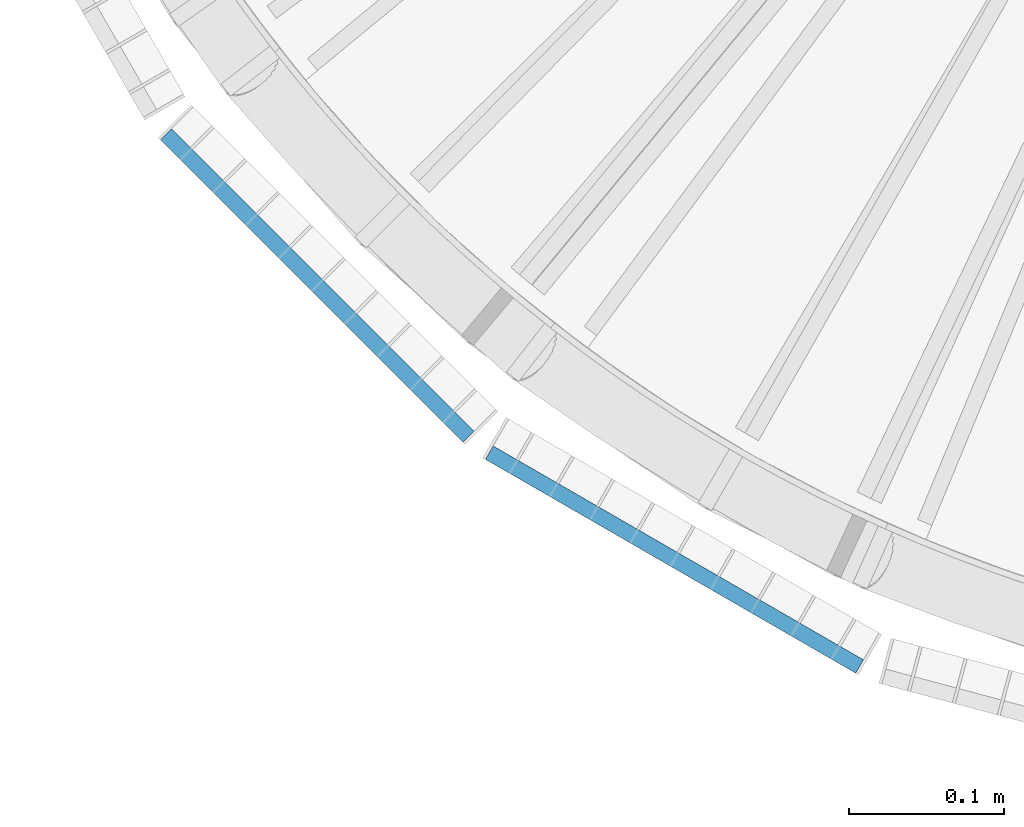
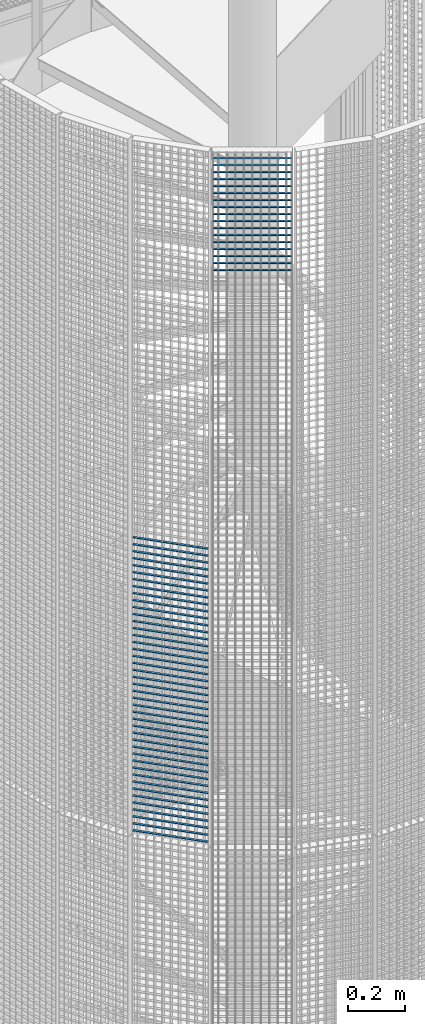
# One storey, part 328 of 1148: 60 beams, 2 elements without a shape of their own.
"""IFC2X3 building model written with IfcOpenShell, lengths in millimetres."""

from ifc_helpers import new_model, si_unit, frame, origin_with_axes, origin_2d_with_axis, place, context, subcontext, project, spatial, rectangle, extrude, material, type_object, element, aggregate, save


model = new_model("IFC2X3")

# Units and contexts
model_context = context("Model", 3, precision=1e-05, world=origin_with_axes())
body_context = subcontext(model_context, "Body", "Model", "MODEL_VIEW")
ifc_project = project(units=[si_unit("LENGTHUNIT", "METRE", prefix="MILLI"), si_unit("AREAUNIT", "SQUARE_METRE"), si_unit("VOLUMEUNIT", "CUBIC_METRE"), si_unit("MASSUNIT", "GRAM", prefix="KILO"), si_unit("TIMEUNIT", "SECOND"), si_unit("PLANEANGLEUNIT", "RADIAN"), si_unit("SOLIDANGLEUNIT", "STERADIAN"), si_unit("THERMODYNAMICTEMPERATUREUNIT", "DEGREE_CELSIUS"), si_unit("LUMINOUSINTENSITYUNIT", "LUMEN")], contexts=[model_context])

# Site, building, storey
site_placement = place(None, origin_with_axes())
site = spatial("IfcSite", under=ifc_project, at=site_placement, Name="Undefined", CompositionType="ELEMENT")
building_placement = place(site_placement, origin_with_axes())
building = spatial("IfcBuilding", under=site, at=building_placement, Name="Undefined", CompositionType="ELEMENT")
storey_placement = place(building_placement, origin_with_axes())
storey = spatial("IfcBuildingStorey", under=building, at=storey_placement, Name="Undefined", CompositionType="ELEMENT", Elevation=0.0)

# Assembly, beams
assembly_1_placement = place(storey_placement, origin_with_axes())
assembly_1 = element("IfcElementAssembly", 1, at=assembly_1_placement, inside=storey, Name="BORDURE", AssemblyPlace="NOTDEFINED", PredefinedType="NOTDEFINED")
ifc_material = material(Name="STEEL/S235JR")
beam_type = type_object("IfcBeamType", Name="PL2*10", PredefinedType="NOTDEFINED")
beam_1_placement = place(assembly_1_placement, frame((20910.2286510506, -884.927168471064, 16290.0), z_axis=(-0.70710678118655, -0.707106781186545, 0.0), x_axis=(-0.707106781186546, 0.707106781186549, 0.0)))
beam_1 = element("IfcBeam", 2, at=beam_1_placement, type_object=beam_type, material=ifc_material, Name="ENTRETOISE", context=body_context, shape_type="SweptSolid", body=[
    extrude(rectangle(XDim=2.0, YDim=10.0, at=origin_2d_with_axis()), frame((275.999999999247, 9.09494701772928e-13, 1.53210777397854e-14), z_axis=(-1.0, 0.0, 0.0), x_axis=(0.0, -1.0, 0.0)), (0.0, 0.0, 1.0), 276.0),
])
beam_2_placement = place(assembly_1_placement, frame((20910.2286510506, -884.927168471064, 16260.0), z_axis=(-0.70710678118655, -0.707106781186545, 0.0), x_axis=(-0.707106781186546, 0.707106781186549, 0.0)))
beam_2 = element("IfcBeam", 3, at=beam_2_placement, type_object=beam_type, material=ifc_material, Name="ENTRETOISE", context=body_context, shape_type="SweptSolid", body=[
    extrude(rectangle(XDim=2.0, YDim=10.0, at=origin_2d_with_axis()), frame((275.999999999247, 9.09494701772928e-13, 1.53210777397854e-14), z_axis=(-1.0, 0.0, 0.0), x_axis=(0.0, -1.0, 0.0)), (0.0, 0.0, 1.0), 276.0),
])
beam_3_placement = place(assembly_1_placement, frame((20910.2286510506, -884.927168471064, 16230.0), z_axis=(-0.70710678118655, -0.707106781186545, 0.0), x_axis=(-0.707106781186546, 0.707106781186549, 0.0)))
beam_3 = element("IfcBeam", 4, at=beam_3_placement, type_object=beam_type, material=ifc_material, Name="ENTRETOISE", context=body_context, shape_type="SweptSolid", body=[
    extrude(rectangle(XDim=2.0, YDim=10.0, at=origin_2d_with_axis()), frame((275.999999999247, 9.09494701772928e-13, 1.53210777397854e-14), z_axis=(-1.0, 0.0, 0.0), x_axis=(0.0, -1.0, 0.0)), (0.0, 0.0, 1.0), 276.0),
])
beam_4_placement = place(assembly_1_placement, frame((20910.2286510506, -884.927168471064, 16200.0), z_axis=(-0.70710678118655, -0.707106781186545, 0.0), x_axis=(-0.707106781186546, 0.707106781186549, 0.0)))
beam_4 = element("IfcBeam", 5, at=beam_4_placement, type_object=beam_type, material=ifc_material, Name="ENTRETOISE", context=body_context, shape_type="SweptSolid", body=[
    extrude(rectangle(XDim=2.0, YDim=10.0, at=origin_2d_with_axis()), frame((275.999999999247, 9.09494701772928e-13, 1.53210777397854e-14), z_axis=(-1.0, 0.0, 0.0), x_axis=(0.0, -1.0, 0.0)), (0.0, 0.0, 1.0), 276.0),
])
beam_5_placement = place(assembly_1_placement, frame((20910.2286510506, -884.927168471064, 16170.0), z_axis=(-0.70710678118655, -0.707106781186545, 0.0), x_axis=(-0.707106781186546, 0.707106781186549, 0.0)))
beam_5 = element("IfcBeam", 6, at=beam_5_placement, type_object=beam_type, material=ifc_material, Name="ENTRETOISE", context=body_context, shape_type="SweptSolid", body=[
    extrude(rectangle(XDim=2.0, YDim=10.0, at=origin_2d_with_axis()), frame((275.999999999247, 9.09494701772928e-13, 1.53210777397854e-14), z_axis=(-1.0, 0.0, 0.0), x_axis=(0.0, -1.0, 0.0)), (0.0, 0.0, 1.0), 276.0),
])
beam_6_placement = place(assembly_1_placement, frame((20910.2286510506, -884.927168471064, 16140.0), z_axis=(-0.70710678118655, -0.707106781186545, 0.0), x_axis=(-0.707106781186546, 0.707106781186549, 0.0)))
beam_6 = element("IfcBeam", 7, at=beam_6_placement, type_object=beam_type, material=ifc_material, Name="ENTRETOISE", context=body_context, shape_type="SweptSolid", body=[
    extrude(rectangle(XDim=2.0, YDim=10.0, at=origin_2d_with_axis()), frame((275.999999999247, 9.09494701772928e-13, 1.53210777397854e-14), z_axis=(-1.0, 0.0, 0.0), x_axis=(0.0, -1.0, 0.0)), (0.0, 0.0, 1.0), 276.0),
])
beam_7_placement = place(assembly_1_placement, frame((20910.2286510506, -884.927168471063, 15720.0), z_axis=(-0.70710678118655, -0.707106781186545, 0.0), x_axis=(-0.707106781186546, 0.707106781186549, 0.0)))
beam_7 = element("IfcBeam", 8, at=beam_7_placement, type_object=beam_type, material=ifc_material, Name="ENTRETOISE", context=body_context, shape_type="SweptSolid", body=[
    extrude(rectangle(XDim=2.0, YDim=10.0, at=origin_2d_with_axis()), frame((275.999999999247, 9.09494701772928e-13, 1.53210777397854e-14), z_axis=(-1.0, 0.0, 0.0), x_axis=(0.0, -1.0, 0.0)), (0.0, 0.0, 1.0), 276.0),
])
beam_8_placement = place(assembly_1_placement, frame((20910.2286510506, -884.927168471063, 15690.0), z_axis=(-0.70710678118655, -0.707106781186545, 0.0), x_axis=(-0.707106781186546, 0.707106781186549, 0.0)))
beam_8 = element("IfcBeam", 9, at=beam_8_placement, type_object=beam_type, material=ifc_material, Name="ENTRETOISE", context=body_context, shape_type="SweptSolid", body=[
    extrude(rectangle(XDim=2.0, YDim=10.0, at=origin_2d_with_axis()), frame((275.999999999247, 9.09494701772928e-13, 1.53210777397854e-14), z_axis=(-1.0, 0.0, 0.0), x_axis=(0.0, -1.0, 0.0)), (0.0, 0.0, 1.0), 276.0),
])
beam_9_placement = place(assembly_1_placement, frame((20910.2286510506, -884.927168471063, 15750.0), z_axis=(-0.70710678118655, -0.707106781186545, 0.0), x_axis=(-0.707106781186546, 0.707106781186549, 0.0)))
beam_9 = element("IfcBeam", 10, at=beam_9_placement, type_object=beam_type, material=ifc_material, Name="ENTRETOISE", context=body_context, shape_type="SweptSolid", body=[
    extrude(rectangle(XDim=2.0, YDim=10.0, at=origin_2d_with_axis()), frame((275.999999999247, 9.09494701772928e-13, 1.53210777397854e-14), z_axis=(-1.0, 0.0, 0.0), x_axis=(0.0, -1.0, 0.0)), (0.0, 0.0, 1.0), 276.0),
])
beam_10_placement = place(assembly_1_placement, frame((20910.2286510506, -884.927168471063, 15660.0), z_axis=(-0.70710678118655, -0.707106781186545, 0.0), x_axis=(-0.707106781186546, 0.707106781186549, 0.0)))
beam_10 = element("IfcBeam", 11, at=beam_10_placement, type_object=beam_type, material=ifc_material, Name="ENTRETOISE", context=body_context, shape_type="SweptSolid", body=[
    extrude(rectangle(XDim=2.0, YDim=10.0, at=origin_2d_with_axis()), frame((275.999999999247, 9.09494701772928e-13, 1.53210777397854e-14), z_axis=(-1.0, 0.0, 0.0), x_axis=(0.0, -1.0, 0.0)), (0.0, 0.0, 1.0), 276.0),
])
beam_11_placement = place(assembly_1_placement, frame((20910.2286510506, -884.927168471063, 15630.0), z_axis=(-0.70710678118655, -0.707106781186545, 0.0), x_axis=(-0.707106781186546, 0.707106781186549, 0.0)))
beam_11 = element("IfcBeam", 12, at=beam_11_placement, type_object=beam_type, material=ifc_material, Name="ENTRETOISE", context=body_context, shape_type="SweptSolid", body=[
    extrude(rectangle(XDim=2.0, YDim=10.0, at=origin_2d_with_axis()), frame((275.999999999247, 9.09494701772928e-13, 1.53210777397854e-14), z_axis=(-1.0, 0.0, 0.0), x_axis=(0.0, -1.0, 0.0)), (0.0, 0.0, 1.0), 276.0),
])
beam_12_placement = place(assembly_1_placement, frame((20910.2286510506, -884.927168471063, 15780.0), z_axis=(-0.70710678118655, -0.707106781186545, 0.0), x_axis=(-0.707106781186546, 0.707106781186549, 0.0)))
beam_12 = element("IfcBeam", 13, at=beam_12_placement, type_object=beam_type, material=ifc_material, Name="ENTRETOISE", context=body_context, shape_type="SweptSolid", body=[
    extrude(rectangle(XDim=2.0, YDim=10.0, at=origin_2d_with_axis()), frame((275.999999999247, 9.09494701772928e-13, 1.53210777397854e-14), z_axis=(-1.0, 0.0, 0.0), x_axis=(0.0, -1.0, 0.0)), (0.0, 0.0, 1.0), 276.0),
])
beam_13_placement = place(assembly_1_placement, frame((20910.2286510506, -884.927168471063, 15600.0), z_axis=(-0.70710678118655, -0.707106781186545, 0.0), x_axis=(-0.707106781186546, 0.707106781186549, 0.0)))
beam_13 = element("IfcBeam", 14, at=beam_13_placement, type_object=beam_type, material=ifc_material, Name="ENTRETOISE", context=body_context, shape_type="SweptSolid", body=[
    extrude(rectangle(XDim=2.0, YDim=10.0, at=origin_2d_with_axis()), frame((275.999999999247, 9.09494701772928e-13, 1.53210777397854e-14), z_axis=(-1.0, 0.0, 0.0), x_axis=(0.0, -1.0, 0.0)), (0.0, 0.0, 1.0), 276.0),
])
beam_14_placement = place(assembly_1_placement, frame((20910.2286510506, -884.927168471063, 15810.0), z_axis=(-0.70710678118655, -0.707106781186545, 0.0), x_axis=(-0.707106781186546, 0.707106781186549, 0.0)))
beam_14 = element("IfcBeam", 15, at=beam_14_placement, type_object=beam_type, material=ifc_material, Name="ENTRETOISE", context=body_context, shape_type="SweptSolid", body=[
    extrude(rectangle(XDim=2.0, YDim=10.0, at=origin_2d_with_axis()), frame((275.999999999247, 9.09494701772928e-13, 1.53210777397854e-14), z_axis=(-1.0, 0.0, 0.0), x_axis=(0.0, -1.0, 0.0)), (0.0, 0.0, 1.0), 276.0),
])
beam_15_placement = place(assembly_1_placement, frame((20910.2286510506, -884.927168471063, 15570.0), z_axis=(-0.70710678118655, -0.707106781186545, 0.0), x_axis=(-0.707106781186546, 0.707106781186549, 0.0)))
beam_15 = element("IfcBeam", 16, at=beam_15_placement, type_object=beam_type, material=ifc_material, Name="ENTRETOISE", context=body_context, shape_type="SweptSolid", body=[
    extrude(rectangle(XDim=2.0, YDim=10.0, at=origin_2d_with_axis()), frame((275.999999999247, 9.09494701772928e-13, 1.53210777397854e-14), z_axis=(-1.0, 0.0, 0.0), x_axis=(0.0, -1.0, 0.0)), (0.0, 0.0, 1.0), 276.0),
])
beam_16_placement = place(assembly_1_placement, frame((20910.2286510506, -884.927168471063, 15540.0), z_axis=(-0.70710678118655, -0.707106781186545, 0.0), x_axis=(-0.707106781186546, 0.707106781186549, 0.0)))
beam_16 = element("IfcBeam", 17, at=beam_16_placement, type_object=beam_type, material=ifc_material, Name="ENTRETOISE", context=body_context, shape_type="SweptSolid", body=[
    extrude(rectangle(XDim=2.0, YDim=10.0, at=origin_2d_with_axis()), frame((275.999999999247, 9.09494701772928e-13, 1.53210777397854e-14), z_axis=(-1.0, 0.0, 0.0), x_axis=(0.0, -1.0, 0.0)), (0.0, 0.0, 1.0), 276.0),
])
beam_17_placement = place(assembly_1_placement, frame((20910.2286510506, -884.927168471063, 15840.0), z_axis=(-0.70710678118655, -0.707106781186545, 0.0), x_axis=(-0.707106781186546, 0.707106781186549, 0.0)))
beam_17 = element("IfcBeam", 18, at=beam_17_placement, type_object=beam_type, material=ifc_material, Name="ENTRETOISE", context=body_context, shape_type="SweptSolid", body=[
    extrude(rectangle(XDim=2.0, YDim=10.0, at=origin_2d_with_axis()), frame((275.999999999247, 9.09494701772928e-13, 1.53210777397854e-14), z_axis=(-1.0, 0.0, 0.0), x_axis=(0.0, -1.0, 0.0)), (0.0, 0.0, 1.0), 276.0),
])
beam_18_placement = place(assembly_1_placement, frame((20910.2286510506, -884.927168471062, 15510.0), z_axis=(-0.70710678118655, -0.707106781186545, 0.0), x_axis=(-0.707106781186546, 0.707106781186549, 0.0)))
beam_18 = element("IfcBeam", 19, at=beam_18_placement, type_object=beam_type, material=ifc_material, Name="ENTRETOISE", context=body_context, shape_type="SweptSolid", body=[
    extrude(rectangle(XDim=2.0, YDim=10.0, at=origin_2d_with_axis()), frame((275.999999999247, 9.09494701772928e-13, 1.53210777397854e-14), z_axis=(-1.0, 0.0, 0.0), x_axis=(0.0, -1.0, 0.0)), (0.0, 0.0, 1.0), 276.0),
])
beam_19_placement = place(assembly_1_placement, frame((20910.2286510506, -884.927168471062, 15480.0), z_axis=(-0.70710678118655, -0.707106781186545, 0.0), x_axis=(-0.707106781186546, 0.707106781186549, 0.0)))
beam_19 = element("IfcBeam", 20, at=beam_19_placement, type_object=beam_type, material=ifc_material, Name="ENTRETOISE", context=body_context, shape_type="SweptSolid", body=[
    extrude(rectangle(XDim=2.0, YDim=10.0, at=origin_2d_with_axis()), frame((275.999999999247, 9.09494701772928e-13, 1.53210777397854e-14), z_axis=(-1.0, 0.0, 0.0), x_axis=(0.0, -1.0, 0.0)), (0.0, 0.0, 1.0), 276.0),
])
beam_20_placement = place(assembly_1_placement, frame((20910.2286510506, -884.927168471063, 15870.0), z_axis=(-0.70710678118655, -0.707106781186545, 0.0), x_axis=(-0.707106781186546, 0.707106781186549, 0.0)))
beam_20 = element("IfcBeam", 21, at=beam_20_placement, type_object=beam_type, material=ifc_material, Name="ENTRETOISE", context=body_context, shape_type="SweptSolid", body=[
    extrude(rectangle(XDim=2.0, YDim=10.0, at=origin_2d_with_axis()), frame((275.999999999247, 9.09494701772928e-13, 1.53210777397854e-14), z_axis=(-1.0, 0.0, 0.0), x_axis=(0.0, -1.0, 0.0)), (0.0, 0.0, 1.0), 276.0),
])
beam_21_placement = place(assembly_1_placement, frame((20910.2286510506, -884.927168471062, 15450.0), z_axis=(-0.70710678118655, -0.707106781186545, 0.0), x_axis=(-0.707106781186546, 0.707106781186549, 0.0)))
beam_21 = element("IfcBeam", 22, at=beam_21_placement, type_object=beam_type, material=ifc_material, Name="ENTRETOISE", context=body_context, shape_type="SweptSolid", body=[
    extrude(rectangle(XDim=2.0, YDim=10.0, at=origin_2d_with_axis()), frame((275.999999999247, 9.09494701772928e-13, 1.53210777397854e-14), z_axis=(-1.0, 0.0, 0.0), x_axis=(0.0, -1.0, 0.0)), (0.0, 0.0, 1.0), 276.0),
])
beam_22_placement = place(assembly_1_placement, frame((20910.2286510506, -884.927168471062, 15420.0), z_axis=(-0.70710678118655, -0.707106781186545, 0.0), x_axis=(-0.707106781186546, 0.707106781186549, 0.0)))
beam_22 = element("IfcBeam", 23, at=beam_22_placement, type_object=beam_type, material=ifc_material, Name="ENTRETOISE", context=body_context, shape_type="SweptSolid", body=[
    extrude(rectangle(XDim=2.0, YDim=10.0, at=origin_2d_with_axis()), frame((275.999999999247, 9.09494701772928e-13, 1.53210777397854e-14), z_axis=(-1.0, 0.0, 0.0), x_axis=(0.0, -1.0, 0.0)), (0.0, 0.0, 1.0), 276.0),
])
beam_23_placement = place(assembly_1_placement, frame((20910.2286510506, -884.927168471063, 15900.0), z_axis=(-0.70710678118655, -0.707106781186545, 0.0), x_axis=(-0.707106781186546, 0.707106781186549, 0.0)))
beam_23 = element("IfcBeam", 24, at=beam_23_placement, type_object=beam_type, material=ifc_material, Name="ENTRETOISE", context=body_context, shape_type="SweptSolid", body=[
    extrude(rectangle(XDim=2.0, YDim=10.0, at=origin_2d_with_axis()), frame((275.999999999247, 9.09494701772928e-13, 1.53210777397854e-14), z_axis=(-1.0, 0.0, 0.0), x_axis=(0.0, -1.0, 0.0)), (0.0, 0.0, 1.0), 276.0),
])
beam_24_placement = place(assembly_1_placement, frame((20910.2286510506, -884.927168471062, 15390.0), z_axis=(-0.70710678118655, -0.707106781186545, 0.0), x_axis=(-0.707106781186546, 0.707106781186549, 0.0)))
beam_24 = element("IfcBeam", 25, at=beam_24_placement, type_object=beam_type, material=ifc_material, Name="ENTRETOISE", context=body_context, shape_type="SweptSolid", body=[
    extrude(rectangle(XDim=2.0, YDim=10.0, at=origin_2d_with_axis()), frame((275.999999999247, 9.09494701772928e-13, 1.53210777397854e-14), z_axis=(-1.0, 0.0, 0.0), x_axis=(0.0, -1.0, 0.0)), (0.0, 0.0, 1.0), 276.0),
])
beam_25_placement = place(assembly_1_placement, frame((20910.2286510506, -884.927168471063, 15930.0), z_axis=(-0.70710678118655, -0.707106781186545, 0.0), x_axis=(-0.707106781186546, 0.707106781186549, 0.0)))
beam_25 = element("IfcBeam", 26, at=beam_25_placement, type_object=beam_type, material=ifc_material, Name="ENTRETOISE", context=body_context, shape_type="SweptSolid", body=[
    extrude(rectangle(XDim=2.0, YDim=10.0, at=origin_2d_with_axis()), frame((275.999999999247, 9.09494701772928e-13, 1.53210777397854e-14), z_axis=(-1.0, 0.0, 0.0), x_axis=(0.0, -1.0, 0.0)), (0.0, 0.0, 1.0), 276.0),
])
beam_26_placement = place(assembly_1_placement, frame((20910.2286510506, -884.927168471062, 15360.0), z_axis=(-0.70710678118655, -0.707106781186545, 0.0), x_axis=(-0.707106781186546, 0.707106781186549, 0.0)))
beam_26 = element("IfcBeam", 27, at=beam_26_placement, type_object=beam_type, material=ifc_material, Name="ENTRETOISE", context=body_context, shape_type="SweptSolid", body=[
    extrude(rectangle(XDim=2.0, YDim=10.0, at=origin_2d_with_axis()), frame((275.999999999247, 9.09494701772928e-13, 1.53210777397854e-14), z_axis=(-1.0, 0.0, 0.0), x_axis=(0.0, -1.0, 0.0)), (0.0, 0.0, 1.0), 276.0),
])
beam_27_placement = place(assembly_1_placement, frame((20910.2286510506, -884.927168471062, 15330.0), z_axis=(-0.70710678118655, -0.707106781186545, 0.0), x_axis=(-0.707106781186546, 0.707106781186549, 0.0)))
beam_27 = element("IfcBeam", 28, at=beam_27_placement, type_object=beam_type, material=ifc_material, Name="ENTRETOISE", context=body_context, shape_type="SweptSolid", body=[
    extrude(rectangle(XDim=2.0, YDim=10.0, at=origin_2d_with_axis()), frame((275.999999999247, 9.09494701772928e-13, 1.53210777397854e-14), z_axis=(-1.0, 0.0, 0.0), x_axis=(0.0, -1.0, 0.0)), (0.0, 0.0, 1.0), 276.0),
])
beam_28_placement = place(assembly_1_placement, frame((20910.2286510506, -884.927168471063, 15960.0), z_axis=(-0.70710678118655, -0.707106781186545, 0.0), x_axis=(-0.707106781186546, 0.707106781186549, 0.0)))
beam_28 = element("IfcBeam", 29, at=beam_28_placement, type_object=beam_type, material=ifc_material, Name="ENTRETOISE", context=body_context, shape_type="SweptSolid", body=[
    extrude(rectangle(XDim=2.0, YDim=10.0, at=origin_2d_with_axis()), frame((275.999999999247, 9.09494701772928e-13, 1.53210777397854e-14), z_axis=(-1.0, 0.0, 0.0), x_axis=(0.0, -1.0, 0.0)), (0.0, 0.0, 1.0), 276.0),
])
beam_29_placement = place(assembly_1_placement, frame((20910.2286510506, -884.927168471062, 15300.0), z_axis=(-0.70710678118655, -0.707106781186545, 0.0), x_axis=(-0.707106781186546, 0.707106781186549, 0.0)))
beam_29 = element("IfcBeam", 30, at=beam_29_placement, type_object=beam_type, material=ifc_material, Name="ENTRETOISE", context=body_context, shape_type="SweptSolid", body=[
    extrude(rectangle(XDim=2.0, YDim=10.0, at=origin_2d_with_axis()), frame((275.999999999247, 9.09494701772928e-13, 1.53210777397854e-14), z_axis=(-1.0, 0.0, 0.0), x_axis=(0.0, -1.0, 0.0)), (0.0, 0.0, 1.0), 276.0),
])
beam_30_placement = place(assembly_1_placement, frame((20910.2286510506, -884.927168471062, 15270.0), z_axis=(-0.70710678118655, -0.707106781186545, 0.0), x_axis=(-0.707106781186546, 0.707106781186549, 0.0)))
beam_30 = element("IfcBeam", 31, at=beam_30_placement, type_object=beam_type, material=ifc_material, Name="ENTRETOISE", context=body_context, shape_type="SweptSolid", body=[
    extrude(rectangle(XDim=2.0, YDim=10.0, at=origin_2d_with_axis()), frame((275.999999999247, 9.09494701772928e-13, 1.53210777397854e-14), z_axis=(-1.0, 0.0, 0.0), x_axis=(0.0, -1.0, 0.0)), (0.0, 0.0, 1.0), 276.0),
])
beam_31_placement = place(assembly_1_placement, frame((20910.2286510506, -884.927168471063, 15990.0), z_axis=(-0.70710678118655, -0.707106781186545, 0.0), x_axis=(-0.707106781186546, 0.707106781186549, 0.0)))
beam_31 = element("IfcBeam", 32, at=beam_31_placement, type_object=beam_type, material=ifc_material, Name="ENTRETOISE", context=body_context, shape_type="SweptSolid", body=[
    extrude(rectangle(XDim=2.0, YDim=10.0, at=origin_2d_with_axis()), frame((275.999999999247, 9.09494701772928e-13, 1.53210777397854e-14), z_axis=(-1.0, 0.0, 0.0), x_axis=(0.0, -1.0, 0.0)), (0.0, 0.0, 1.0), 276.0),
])
beam_32_placement = place(assembly_1_placement, frame((20910.2286510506, -884.927168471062, 15240.0), z_axis=(-0.70710678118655, -0.707106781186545, 0.0), x_axis=(-0.707106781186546, 0.707106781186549, 0.0)))
beam_32 = element("IfcBeam", 33, at=beam_32_placement, type_object=beam_type, material=ifc_material, Name="ENTRETOISE", context=body_context, shape_type="SweptSolid", body=[
    extrude(rectangle(XDim=2.0, YDim=10.0, at=origin_2d_with_axis()), frame((275.999999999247, 9.09494701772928e-13, 1.53210777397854e-14), z_axis=(-1.0, 0.0, 0.0), x_axis=(0.0, -1.0, 0.0)), (0.0, 0.0, 1.0), 276.0),
])
beam_33_placement = place(assembly_1_placement, frame((20910.2286510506, -884.927168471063, 16020.0), z_axis=(-0.70710678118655, -0.707106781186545, 0.0), x_axis=(-0.707106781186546, 0.707106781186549, 0.0)))
beam_33 = element("IfcBeam", 34, at=beam_33_placement, type_object=beam_type, material=ifc_material, Name="ENTRETOISE", context=body_context, shape_type="SweptSolid", body=[
    extrude(rectangle(XDim=2.0, YDim=10.0, at=origin_2d_with_axis()), frame((275.999999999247, 9.09494701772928e-13, 1.53210777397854e-14), z_axis=(-1.0, 0.0, 0.0), x_axis=(0.0, -1.0, 0.0)), (0.0, 0.0, 1.0), 276.0),
])
beam_34_placement = place(assembly_1_placement, frame((20910.2286510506, -884.927168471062, 15210.0), z_axis=(-0.70710678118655, -0.707106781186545, 0.0), x_axis=(-0.707106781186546, 0.707106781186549, 0.0)))
beam_34 = element("IfcBeam", 35, at=beam_34_placement, type_object=beam_type, material=ifc_material, Name="ENTRETOISE", context=body_context, shape_type="SweptSolid", body=[
    extrude(rectangle(XDim=2.0, YDim=10.0, at=origin_2d_with_axis()), frame((275.999999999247, 9.09494701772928e-13, 1.53210777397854e-14), z_axis=(-1.0, 0.0, 0.0), x_axis=(0.0, -1.0, 0.0)), (0.0, 0.0, 1.0), 276.0),
])
beam_35_placement = place(assembly_1_placement, frame((20910.2286510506, -884.927168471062, 15180.0), z_axis=(-0.70710678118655, -0.707106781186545, 0.0), x_axis=(-0.707106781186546, 0.707106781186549, 0.0)))
beam_35 = element("IfcBeam", 36, at=beam_35_placement, type_object=beam_type, material=ifc_material, Name="ENTRETOISE", context=body_context, shape_type="SweptSolid", body=[
    extrude(rectangle(XDim=2.0, YDim=10.0, at=origin_2d_with_axis()), frame((275.999999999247, 9.09494701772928e-13, 1.53210777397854e-14), z_axis=(-1.0, 0.0, 0.0), x_axis=(0.0, -1.0, 0.0)), (0.0, 0.0, 1.0), 276.0),
])
beam_36_placement = place(assembly_1_placement, frame((20910.2286510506, -884.927168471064, 16050.0), z_axis=(-0.70710678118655, -0.707106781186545, 0.0), x_axis=(-0.707106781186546, 0.707106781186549, 0.0)))
beam_36 = element("IfcBeam", 37, at=beam_36_placement, type_object=beam_type, material=ifc_material, Name="ENTRETOISE", context=body_context, shape_type="SweptSolid", body=[
    extrude(rectangle(XDim=2.0, YDim=10.0, at=origin_2d_with_axis()), frame((275.999999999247, 9.09494701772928e-13, 1.53210777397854e-14), z_axis=(-1.0, 0.0, 0.0), x_axis=(0.0, -1.0, 0.0)), (0.0, 0.0, 1.0), 276.0),
])
beam_37_placement = place(assembly_1_placement, frame((20910.2286510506, -884.927168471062, 15150.0), z_axis=(-0.70710678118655, -0.707106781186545, 0.0), x_axis=(-0.707106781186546, 0.707106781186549, 0.0)))
beam_37 = element("IfcBeam", 38, at=beam_37_placement, type_object=beam_type, material=ifc_material, Name="ENTRETOISE", context=body_context, shape_type="SweptSolid", body=[
    extrude(rectangle(XDim=2.0, YDim=10.0, at=origin_2d_with_axis()), frame((275.999999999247, 9.09494701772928e-13, 1.53210777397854e-14), z_axis=(-1.0, 0.0, 0.0), x_axis=(0.0, -1.0, 0.0)), (0.0, 0.0, 1.0), 276.0),
])
beam_38_placement = place(assembly_1_placement, frame((20910.2286510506, -884.927168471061, 15120.0), z_axis=(-0.70710678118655, -0.707106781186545, 0.0), x_axis=(-0.707106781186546, 0.707106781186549, 0.0)))
beam_38 = element("IfcBeam", 39, at=beam_38_placement, type_object=beam_type, material=ifc_material, Name="ENTRETOISE", context=body_context, shape_type="SweptSolid", body=[
    extrude(rectangle(XDim=2.0, YDim=10.0, at=origin_2d_with_axis()), frame((275.999999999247, 9.09494701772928e-13, 1.53210777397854e-14), z_axis=(-1.0, 0.0, 0.0), x_axis=(0.0, -1.0, 0.0)), (0.0, 0.0, 1.0), 276.0),
])
beam_39_placement = place(assembly_1_placement, frame((20910.2286510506, -884.927168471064, 16080.0), z_axis=(-0.70710678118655, -0.707106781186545, 0.0), x_axis=(-0.707106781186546, 0.707106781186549, 0.0)))
beam_39 = element("IfcBeam", 40, at=beam_39_placement, type_object=beam_type, material=ifc_material, Name="ENTRETOISE", context=body_context, shape_type="SweptSolid", body=[
    extrude(rectangle(XDim=2.0, YDim=10.0, at=origin_2d_with_axis()), frame((275.999999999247, 9.09494701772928e-13, 1.53210777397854e-14), z_axis=(-1.0, 0.0, 0.0), x_axis=(0.0, -1.0, 0.0)), (0.0, 0.0, 1.0), 276.0),
])
beam_40_placement = place(assembly_1_placement, frame((20910.2286510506, -884.927168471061, 15090.0), z_axis=(-0.70710678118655, -0.707106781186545, 0.0), x_axis=(-0.707106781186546, 0.707106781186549, 0.0)))
beam_40 = element("IfcBeam", 41, at=beam_40_placement, type_object=beam_type, material=ifc_material, Name="ENTRETOISE", context=body_context, shape_type="SweptSolid", body=[
    extrude(rectangle(XDim=2.0, YDim=10.0, at=origin_2d_with_axis()), frame((275.999999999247, 9.09494701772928e-13, 1.53210777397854e-14), z_axis=(-1.0, 0.0, 0.0), x_axis=(0.0, -1.0, 0.0)), (0.0, 0.0, 1.0), 276.0),
])
beam_41_placement = place(assembly_1_placement, frame((20910.2286510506, -884.927168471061, 15060.0), z_axis=(-0.70710678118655, -0.707106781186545, 0.0), x_axis=(-0.707106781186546, 0.707106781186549, 0.0)))
beam_41 = element("IfcBeam", 42, at=beam_41_placement, type_object=beam_type, material=ifc_material, Name="ENTRETOISE", context=body_context, shape_type="SweptSolid", body=[
    extrude(rectangle(XDim=2.0, YDim=10.0, at=origin_2d_with_axis()), frame((275.999999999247, 9.09494701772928e-13, 1.53210777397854e-14), z_axis=(-1.0, 0.0, 0.0), x_axis=(0.0, -1.0, 0.0)), (0.0, 0.0, 1.0), 276.0),
])
beam_42_placement = place(assembly_1_placement, frame((20910.2286510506, -884.927168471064, 16110.0), z_axis=(-0.70710678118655, -0.707106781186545, 0.0), x_axis=(-0.707106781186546, 0.707106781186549, 0.0)))
beam_42 = element("IfcBeam", 43, at=beam_42_placement, type_object=beam_type, material=ifc_material, Name="ENTRETOISE", context=body_context, shape_type="SweptSolid", body=[
    extrude(rectangle(XDim=2.0, YDim=10.0, at=origin_2d_with_axis()), frame((275.999999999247, 9.09494701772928e-13, 1.53210777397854e-14), z_axis=(-1.0, 0.0, 0.0), x_axis=(0.0, -1.0, 0.0)), (0.0, 0.0, 1.0), 276.0),
])
beam_43_placement = place(assembly_1_placement, frame((20910.2286510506, -884.92716847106, 15030.0), z_axis=(-0.70710678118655, -0.707106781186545, 0.0), x_axis=(-0.707106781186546, 0.707106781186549, 0.0)))
beam_43 = element("IfcBeam", 44, at=beam_43_placement, type_object=beam_type, material=ifc_material, Name="ENTRETOISE", context=body_context, shape_type="SweptSolid", body=[
    extrude(rectangle(XDim=2.0, YDim=10.0, at=origin_2d_with_axis()), frame((275.999999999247, 9.09494701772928e-13, 1.53210777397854e-14), z_axis=(-1.0, 0.0, 0.0), x_axis=(0.0, -1.0, 0.0)), (0.0, 0.0, 1.0), 276.0),
])
aggregate(assembly_1, [beam_1, beam_2, beam_3, beam_4, beam_5, beam_6, beam_7, beam_8, beam_9, beam_10, beam_11, beam_12, beam_13, beam_14, beam_15, beam_16, beam_17, beam_18, beam_19, beam_20, beam_21, beam_22, beam_23, beam_24, beam_25, beam_26, beam_27, beam_28, beam_29, beam_30, beam_31, beam_32, beam_33, beam_34, beam_35, beam_36, beam_37, beam_38, beam_39, beam_40, beam_41, beam_42, beam_43])

assembly_2_placement = place(storey_placement, origin_with_axes())
assembly_2 = element("IfcElementAssembly", 45, at=assembly_2_placement, inside=storey, Name="BORDURE", AssemblyPlace="NOTDEFINED", PredefinedType="NOTDEFINED")
beam_44_placement = place(assembly_2_placement, frame((21162.7680445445, -1033.29996828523, 17970.0), z_axis=(-0.49999999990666, -0.866025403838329, 0.0), x_axis=(-0.866025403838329, 0.499999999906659, 0.0)))
beam_44 = element("IfcBeam", 46, at=beam_44_placement, type_object=beam_type, material=ifc_material, Name="ENTRETOISE", context=body_context, shape_type="SweptSolid", body=[
    extrude(rectangle(XDim=2.0, YDim=10.0, at=origin_2d_with_axis()), frame((275.999999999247, 9.09494701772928e-13, 1.53210777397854e-14), z_axis=(-1.0, 0.0, 0.0), x_axis=(0.0, -1.0, 0.0)), (0.0, 0.0, 1.0), 276.0),
])
beam_45_placement = place(assembly_2_placement, frame((21162.7680445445, -1033.29996828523, 17940.0), z_axis=(-0.49999999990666, -0.866025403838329, 0.0), x_axis=(-0.866025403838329, 0.499999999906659, 0.0)))
beam_45 = element("IfcBeam", 47, at=beam_45_placement, type_object=beam_type, material=ifc_material, Name="ENTRETOISE", context=body_context, shape_type="SweptSolid", body=[
    extrude(rectangle(XDim=2.0, YDim=10.0, at=origin_2d_with_axis()), frame((275.999999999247, 9.09494701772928e-13, 1.53210777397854e-14), z_axis=(-1.0, 0.0, 0.0), x_axis=(0.0, -1.0, 0.0)), (0.0, 0.0, 1.0), 276.0),
])
beam_46_placement = place(assembly_2_placement, frame((21162.7680445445, -1033.29996828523, 17910.0), z_axis=(-0.49999999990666, -0.866025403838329, 0.0), x_axis=(-0.866025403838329, 0.499999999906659, 0.0)))
beam_46 = element("IfcBeam", 48, at=beam_46_placement, type_object=beam_type, material=ifc_material, Name="ENTRETOISE", context=body_context, shape_type="SweptSolid", body=[
    extrude(rectangle(XDim=2.0, YDim=10.0, at=origin_2d_with_axis()), frame((275.999999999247, 9.09494701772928e-13, 1.53210777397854e-14), z_axis=(-1.0, 0.0, 0.0), x_axis=(0.0, -1.0, 0.0)), (0.0, 0.0, 1.0), 276.0),
])
beam_47_placement = place(assembly_2_placement, frame((21162.7680445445, -1033.29996828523, 17880.0), z_axis=(-0.49999999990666, -0.866025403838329, 0.0), x_axis=(-0.866025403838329, 0.499999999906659, 0.0)))
beam_47 = element("IfcBeam", 49, at=beam_47_placement, type_object=beam_type, material=ifc_material, Name="ENTRETOISE", context=body_context, shape_type="SweptSolid", body=[
    extrude(rectangle(XDim=2.0, YDim=10.0, at=origin_2d_with_axis()), frame((275.999999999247, 9.09494701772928e-13, 1.53210777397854e-14), z_axis=(-1.0, 0.0, 0.0), x_axis=(0.0, -1.0, 0.0)), (0.0, 0.0, 1.0), 276.0),
])
beam_48_placement = place(assembly_2_placement, frame((21162.7680445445, -1033.29996828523, 17850.0), z_axis=(-0.49999999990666, -0.866025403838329, 0.0), x_axis=(-0.866025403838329, 0.499999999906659, 0.0)))
beam_48 = element("IfcBeam", 50, at=beam_48_placement, type_object=beam_type, material=ifc_material, Name="ENTRETOISE", context=body_context, shape_type="SweptSolid", body=[
    extrude(rectangle(XDim=2.0, YDim=10.0, at=origin_2d_with_axis()), frame((275.999999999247, 9.09494701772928e-13, 1.53210777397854e-14), z_axis=(-1.0, 0.0, 0.0), x_axis=(0.0, -1.0, 0.0)), (0.0, 0.0, 1.0), 276.0),
])
beam_49_placement = place(assembly_2_placement, frame((21162.7680445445, -1033.29996828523, 17820.0), z_axis=(-0.49999999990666, -0.866025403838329, 0.0), x_axis=(-0.866025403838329, 0.499999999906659, 0.0)))
beam_49 = element("IfcBeam", 51, at=beam_49_placement, type_object=beam_type, material=ifc_material, Name="ENTRETOISE", context=body_context, shape_type="SweptSolid", body=[
    extrude(rectangle(XDim=2.0, YDim=10.0, at=origin_2d_with_axis()), frame((275.999999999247, 9.09494701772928e-13, 1.53210777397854e-14), z_axis=(-1.0, 0.0, 0.0), x_axis=(0.0, -1.0, 0.0)), (0.0, 0.0, 1.0), 276.0),
])
beam_50_placement = place(assembly_2_placement, frame((21162.7680445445, -1033.29996828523, 17790.0), z_axis=(-0.49999999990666, -0.866025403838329, 0.0), x_axis=(-0.866025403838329, 0.499999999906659, 0.0)))
beam_50 = element("IfcBeam", 52, at=beam_50_placement, type_object=beam_type, material=ifc_material, Name="ENTRETOISE", context=body_context, shape_type="SweptSolid", body=[
    extrude(rectangle(XDim=2.0, YDim=10.0, at=origin_2d_with_axis()), frame((275.999999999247, 9.09494701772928e-13, 1.53210777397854e-14), z_axis=(-1.0, 0.0, 0.0), x_axis=(0.0, -1.0, 0.0)), (0.0, 0.0, 1.0), 276.0),
])
beam_51_placement = place(assembly_2_placement, frame((21162.7680445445, -1033.29996828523, 17760.0), z_axis=(-0.49999999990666, -0.866025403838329, 0.0), x_axis=(-0.866025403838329, 0.499999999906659, 0.0)))
beam_51 = element("IfcBeam", 53, at=beam_51_placement, type_object=beam_type, material=ifc_material, Name="ENTRETOISE", context=body_context, shape_type="SweptSolid", body=[
    extrude(rectangle(XDim=2.0, YDim=10.0, at=origin_2d_with_axis()), frame((275.999999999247, 9.09494701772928e-13, 1.53210777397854e-14), z_axis=(-1.0, 0.0, 0.0), x_axis=(0.0, -1.0, 0.0)), (0.0, 0.0, 1.0), 276.0),
])
beam_52_placement = place(assembly_2_placement, frame((21162.7680445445, -1033.29996828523, 17730.0), z_axis=(-0.49999999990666, -0.866025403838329, 0.0), x_axis=(-0.866025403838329, 0.499999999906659, 0.0)))
beam_52 = element("IfcBeam", 54, at=beam_52_placement, type_object=beam_type, material=ifc_material, Name="ENTRETOISE", context=body_context, shape_type="SweptSolid", body=[
    extrude(rectangle(XDim=2.0, YDim=10.0, at=origin_2d_with_axis()), frame((275.999999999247, 9.09494701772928e-13, 1.53210777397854e-14), z_axis=(-1.0, 0.0, 0.0), x_axis=(0.0, -1.0, 0.0)), (0.0, 0.0, 1.0), 276.0),
])
beam_53_placement = place(assembly_2_placement, frame((21162.7680445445, -1033.29996828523, 17700.0), z_axis=(-0.49999999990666, -0.866025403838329, 0.0), x_axis=(-0.866025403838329, 0.499999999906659, 0.0)))
beam_53 = element("IfcBeam", 55, at=beam_53_placement, type_object=beam_type, material=ifc_material, Name="ENTRETOISE", context=body_context, shape_type="SweptSolid", body=[
    extrude(rectangle(XDim=2.0, YDim=10.0, at=origin_2d_with_axis()), frame((275.999999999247, 9.09494701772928e-13, 1.53210777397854e-14), z_axis=(-1.0, 0.0, 0.0), x_axis=(0.0, -1.0, 0.0)), (0.0, 0.0, 1.0), 276.0),
])
beam_54_placement = place(assembly_2_placement, frame((21162.7680445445, -1033.29996828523, 17670.0), z_axis=(-0.49999999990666, -0.866025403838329, 0.0), x_axis=(-0.866025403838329, 0.499999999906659, 0.0)))
beam_54 = element("IfcBeam", 56, at=beam_54_placement, type_object=beam_type, material=ifc_material, Name="ENTRETOISE", context=body_context, shape_type="SweptSolid", body=[
    extrude(rectangle(XDim=2.0, YDim=10.0, at=origin_2d_with_axis()), frame((275.999999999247, 9.09494701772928e-13, 1.53210777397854e-14), z_axis=(-1.0, 0.0, 0.0), x_axis=(0.0, -1.0, 0.0)), (0.0, 0.0, 1.0), 276.0),
])
beam_55_placement = place(assembly_2_placement, frame((21162.7680445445, -1033.29996828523, 17640.0), z_axis=(-0.49999999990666, -0.866025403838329, 0.0), x_axis=(-0.866025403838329, 0.499999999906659, 0.0)))
beam_55 = element("IfcBeam", 57, at=beam_55_placement, type_object=beam_type, material=ifc_material, Name="ENTRETOISE", context=body_context, shape_type="SweptSolid", body=[
    extrude(rectangle(XDim=2.0, YDim=10.0, at=origin_2d_with_axis()), frame((275.999999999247, 9.09494701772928e-13, 1.53210777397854e-14), z_axis=(-1.0, 0.0, 0.0), x_axis=(0.0, -1.0, 0.0)), (0.0, 0.0, 1.0), 276.0),
])
beam_56_placement = place(assembly_2_placement, frame((21162.7680445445, -1033.29996828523, 17610.0), z_axis=(-0.49999999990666, -0.866025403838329, 0.0), x_axis=(-0.866025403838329, 0.499999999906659, 0.0)))
beam_56 = element("IfcBeam", 58, at=beam_56_placement, type_object=beam_type, material=ifc_material, Name="ENTRETOISE", context=body_context, shape_type="SweptSolid", body=[
    extrude(rectangle(XDim=2.0, YDim=10.0, at=origin_2d_with_axis()), frame((275.999999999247, 9.09494701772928e-13, 1.53210777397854e-14), z_axis=(-1.0, 0.0, 0.0), x_axis=(0.0, -1.0, 0.0)), (0.0, 0.0, 1.0), 276.0),
])
beam_57_placement = place(assembly_2_placement, frame((21162.7680445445, -1033.29996828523, 17580.0), z_axis=(-0.49999999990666, -0.866025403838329, 0.0), x_axis=(-0.866025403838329, 0.499999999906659, 0.0)))
beam_57 = element("IfcBeam", 59, at=beam_57_placement, type_object=beam_type, material=ifc_material, Name="ENTRETOISE", context=body_context, shape_type="SweptSolid", body=[
    extrude(rectangle(XDim=2.0, YDim=10.0, at=origin_2d_with_axis()), frame((275.999999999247, 9.09494701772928e-13, 1.53210777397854e-14), z_axis=(-1.0, 0.0, 0.0), x_axis=(0.0, -1.0, 0.0)), (0.0, 0.0, 1.0), 276.0),
])
beam_58_placement = place(assembly_2_placement, frame((21162.7680445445, -1033.29996828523, 17550.0), z_axis=(-0.49999999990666, -0.866025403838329, 0.0), x_axis=(-0.866025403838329, 0.499999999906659, 0.0)))
beam_58 = element("IfcBeam", 60, at=beam_58_placement, type_object=beam_type, material=ifc_material, Name="ENTRETOISE", context=body_context, shape_type="SweptSolid", body=[
    extrude(rectangle(XDim=2.0, YDim=10.0, at=origin_2d_with_axis()), frame((275.999999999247, 9.09494701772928e-13, 1.53210777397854e-14), z_axis=(-1.0, 0.0, 0.0), x_axis=(0.0, -1.0, 0.0)), (0.0, 0.0, 1.0), 276.0),
])
beam_59_placement = place(assembly_2_placement, frame((21162.7680445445, -1033.29996828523, 17520.0), z_axis=(-0.49999999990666, -0.866025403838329, 0.0), x_axis=(-0.866025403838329, 0.499999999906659, 0.0)))
beam_59 = element("IfcBeam", 61, at=beam_59_placement, type_object=beam_type, material=ifc_material, Name="ENTRETOISE", context=body_context, shape_type="SweptSolid", body=[
    extrude(rectangle(XDim=2.0, YDim=10.0, at=origin_2d_with_axis()), frame((275.999999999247, 9.09494701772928e-13, 1.53210777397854e-14), z_axis=(-1.0, 0.0, 0.0), x_axis=(0.0, -1.0, 0.0)), (0.0, 0.0, 1.0), 276.0),
])
beam_60_placement = place(assembly_2_placement, frame((21162.7680445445, -1033.29996828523, 17490.0), z_axis=(-0.49999999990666, -0.866025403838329, 0.0), x_axis=(-0.866025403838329, 0.499999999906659, 0.0)))
beam_60 = element("IfcBeam", 62, at=beam_60_placement, type_object=beam_type, material=ifc_material, Name="ENTRETOISE", context=body_context, shape_type="SweptSolid", body=[
    extrude(rectangle(XDim=2.0, YDim=10.0, at=origin_2d_with_axis()), frame((275.999999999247, 9.09494701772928e-13, 1.53210777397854e-14), z_axis=(-1.0, 0.0, 0.0), x_axis=(0.0, -1.0, 0.0)), (0.0, 0.0, 1.0), 276.0),
])
aggregate(assembly_2, [beam_44, beam_45, beam_46, beam_47, beam_48, beam_49, beam_50, beam_51, beam_52, beam_53, beam_54, beam_55, beam_56, beam_57, beam_58, beam_59, beam_60])

save(model, "model.ifc")
